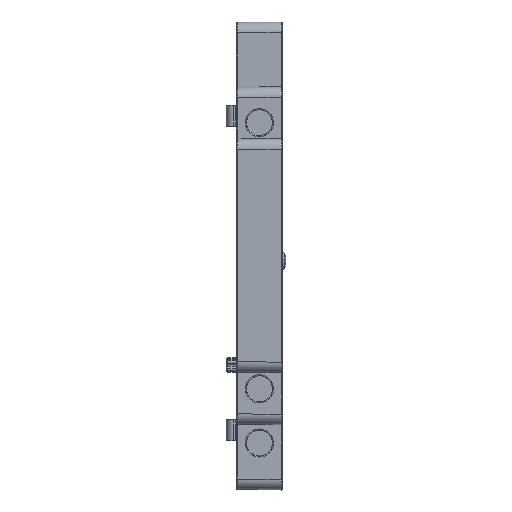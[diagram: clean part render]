
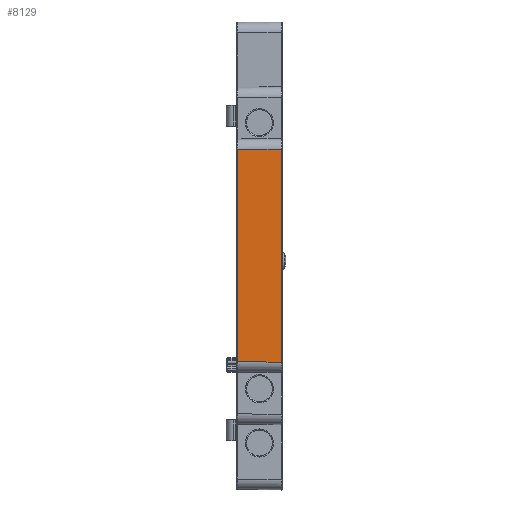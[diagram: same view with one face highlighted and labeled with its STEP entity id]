
A CAD part, top view. The second image highlights one B-rep face of the part: STEP entity #8129.
In plain terms, the highlighted planar face has unit normal (-0.009, 0, 1).
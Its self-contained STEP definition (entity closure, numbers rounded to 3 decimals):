
#280 = EDGE_CURVE ( 'NONE', #3170, #9980, #7451, .T. ) ;
#545 = ORIENTED_EDGE ( 'NONE', *, *, #15358, .T. ) ;
#652 = PLANE ( 'NONE',  #3720 ) ;
#1405 = ORIENTED_EDGE ( 'NONE', *, *, #2020, .F. ) ;
#1663 = LINE ( 'NONE', #14872, #12979 ) ;
#2020 = EDGE_CURVE ( 'NONE', #9980, #12634, #7445, .T. ) ;
#2213 = CARTESIAN_POINT ( 'NONE',  ( 2.198, 65.423, 63.625 ) ) ;
#2853 = DIRECTION ( 'NONE',  ( 1., -0.009, 0.009 ) ) ;
#3170 = VERTEX_POINT ( 'NONE', #12084 ) ;
#3172 = DIRECTION ( 'NONE',  ( 0., -1., 0. ) ) ;
#3581 = CARTESIAN_POINT ( 'NONE',  ( 2.198, 24.573, 63.625 ) ) ;
#3639 = VECTOR ( 'NONE', #3896, 1000. ) ;
#3720 = AXIS2_PLACEMENT_3D ( 'NONE', #11535, #5498, #10336 ) ;
#3896 = DIRECTION ( 'NONE',  ( 1., 0.009, 0.009 ) ) ;
#4965 = CARTESIAN_POINT ( 'NONE',  ( 10.598, 65.497, 63.698 ) ) ;
#5416 = FACE_OUTER_BOUND ( 'NONE', #12907, .T. ) ;
#5498 = DIRECTION ( 'NONE',  ( -0.009, 0., 1. ) ) ;
#6491 = VECTOR ( 'NONE', #3172, 1000. ) ;
#6510 = LINE ( 'NONE', #12713, #6491 ) ;
#7445 = LINE ( 'NONE', #12398, #3639 ) ;
#7451 = LINE ( 'NONE', #3581, #10961 ) ;
#8129 = ADVANCED_FACE ( 'NONE', ( #5416 ), #652, .T. ) ;
#8249 = EDGE_CURVE ( 'NONE', #12634, #9168, #6510, .T. ) ;
#9168 = VERTEX_POINT ( 'NONE', #9691 ) ;
#9691 = CARTESIAN_POINT ( 'NONE',  ( 10.598, 24.5, 63.698 ) ) ;
#9980 = VERTEX_POINT ( 'NONE', #2213 ) ;
#10336 = DIRECTION ( 'NONE',  ( 0., -1., 0. ) ) ;
#10961 = VECTOR ( 'NONE', #12244, 1000. ) ;
#11535 = CARTESIAN_POINT ( 'NONE',  ( 10.8, 21.387, 63.7 ) ) ;
#12084 = CARTESIAN_POINT ( 'NONE',  ( 2.198, 24.573, 63.625 ) ) ;
#12244 = DIRECTION ( 'NONE',  ( 0., 1., 0. ) ) ;
#12398 = CARTESIAN_POINT ( 'NONE',  ( 2.198, 65.423, 63.625 ) ) ;
#12634 = VERTEX_POINT ( 'NONE', #4965 ) ;
#12666 = ORIENTED_EDGE ( 'NONE', *, *, #8249, .F. ) ;
#12713 = CARTESIAN_POINT ( 'NONE',  ( 10.598, 65.497, 63.698 ) ) ;
#12907 = EDGE_LOOP ( 'NONE', ( #1405, #13232, #545, #12666 ) ) ;
#12979 = VECTOR ( 'NONE', #2853, 1000. ) ;
#13232 = ORIENTED_EDGE ( 'NONE', *, *, #280, .F. ) ;
#14872 = CARTESIAN_POINT ( 'NONE',  ( 2.198, 24.573, 63.625 ) ) ;
#15358 = EDGE_CURVE ( 'NONE', #3170, #9168, #1663, .T. ) ;
